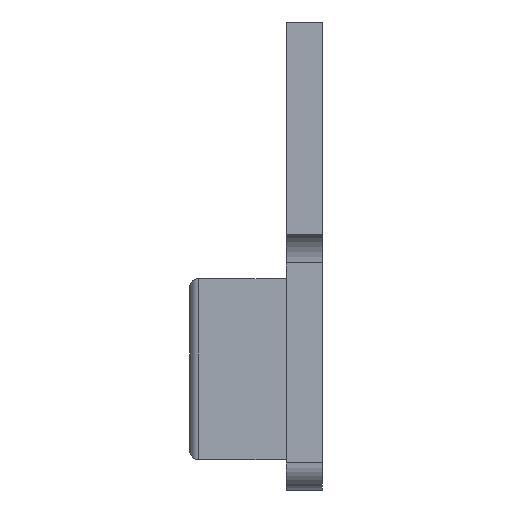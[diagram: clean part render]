
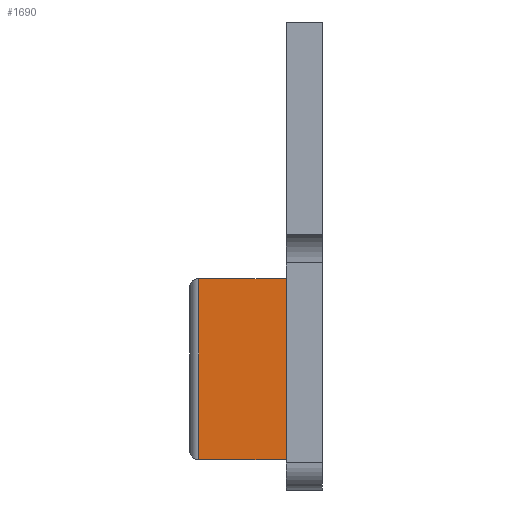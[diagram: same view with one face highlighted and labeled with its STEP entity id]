
A CAD part, left-side view. The second image highlights one B-rep face of the part: STEP entity #1690.
In plain terms, the highlighted planar face has unit normal (-1, 0, 0).
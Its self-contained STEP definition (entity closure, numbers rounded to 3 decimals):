
#206=FACE_OUTER_BOUND('',#308,.T.);
#308=EDGE_LOOP('',(#1139,#1140,#1141,#1142));
#431=LINE('',#2428,#573);
#432=LINE('',#2430,#574);
#433=LINE('',#2432,#575);
#434=LINE('',#2433,#576);
#573=VECTOR('',#1967,10.);
#574=VECTOR('',#1968,10.);
#575=VECTOR('',#1969,10.);
#576=VECTOR('',#1970,10.);
#713=VERTEX_POINT('',#2426);
#714=VERTEX_POINT('',#2427);
#715=VERTEX_POINT('',#2429);
#716=VERTEX_POINT('',#2431);
#879=EDGE_CURVE('',#713,#714,#431,.T.);
#880=EDGE_CURVE('',#715,#713,#432,.T.);
#881=EDGE_CURVE('',#716,#715,#433,.T.);
#882=EDGE_CURVE('',#716,#714,#434,.T.);
#1139=ORIENTED_EDGE('',*,*,#879,.F.);
#1140=ORIENTED_EDGE('',*,*,#880,.F.);
#1141=ORIENTED_EDGE('',*,*,#881,.F.);
#1142=ORIENTED_EDGE('',*,*,#882,.T.);
#1646=PLANE('',#1794);
#1690=ADVANCED_FACE('',(#206),#1646,.T.);
#1794=AXIS2_PLACEMENT_3D('',#2425,#1965,#1966);
#1965=DIRECTION('center_axis',(-1.,0.,0.));
#1966=DIRECTION('ref_axis',(0.,0.,-1.));
#1967=DIRECTION('',(0.,0.,-1.));
#1968=DIRECTION('',(0.,-1.,0.));
#1969=DIRECTION('',(0.,0.,1.));
#1970=DIRECTION('',(0.,-1.,0.));
#2425=CARTESIAN_POINT('Origin',(58.,2.7,0.));
#2426=CARTESIAN_POINT('',(58.,1.2,0.));
#2427=CARTESIAN_POINT('',(58.,1.2,-6.));
#2428=CARTESIAN_POINT('',(58.,1.2,0.375));
#2429=CARTESIAN_POINT('',(58.,4.1,0.));
#2430=CARTESIAN_POINT('',(58.,2.7,0.));
#2431=CARTESIAN_POINT('',(58.,4.1,-6.));
#2432=CARTESIAN_POINT('',(58.,4.1,-1.5));
#2433=CARTESIAN_POINT('',(58.,2.7,-6.));
